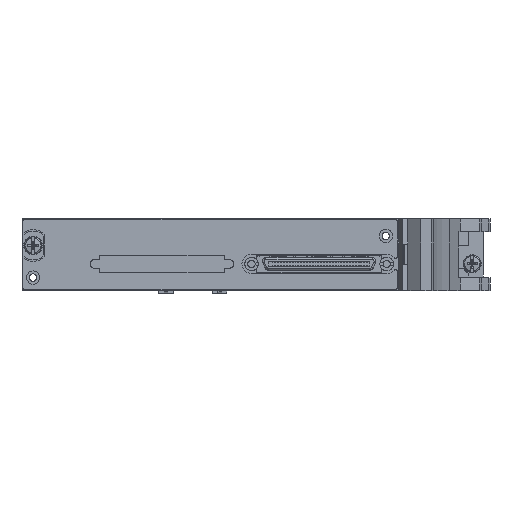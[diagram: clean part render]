
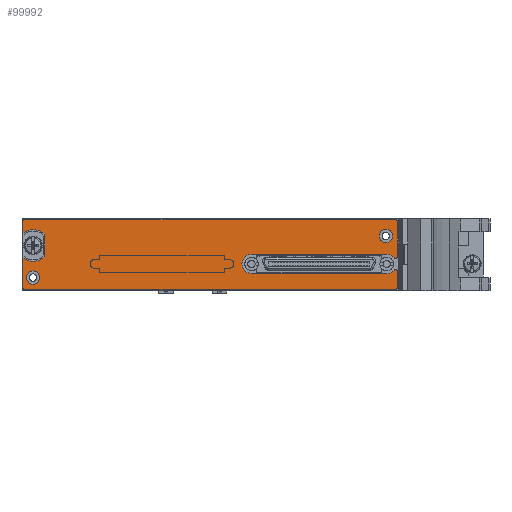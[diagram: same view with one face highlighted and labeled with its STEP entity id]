
A CAD part, left-side view. The second image highlights one B-rep face of the part: STEP entity #99992.
In plain terms, the highlighted planar face has unit normal (-1, 0, 0).
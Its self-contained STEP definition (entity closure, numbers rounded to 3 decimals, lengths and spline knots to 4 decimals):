
#22771=CARTESIAN_POINT('',(-0.2204,-3.535,0.1182));
#22772=DIRECTION('',(-1.,0.,0.));
#22773=DIRECTION('',(0.,-1.,0.));
#22774=AXIS2_PLACEMENT_3D('',#22771,#22772,#22773);
#22776=DIRECTION('',(0.,0.,1.));
#22777=VECTOR('',#22776,0.1802);
#22778=CARTESIAN_POINT('',(-0.2204,-3.555,-0.062));
#22779=LINE('',#22778,#22777);
#22780=CARTESIAN_POINT('',(-0.2204,-3.535,-0.062));
#22781=DIRECTION('',(-1.,0.,0.));
#22782=DIRECTION('',(0.,0.,-1.));
#22783=AXIS2_PLACEMENT_3D('',#22780,#22781,#22782);
#22785=DIRECTION('',(0.,-1.,0.));
#22786=VECTOR('',#22785,4.07);
#22787=CARTESIAN_POINT('',(-0.2204,0.535,-0.082));
#22788=LINE('',#22787,#22786);
#22789=CARTESIAN_POINT('',(-0.2204,0.535,-0.062));
#22790=DIRECTION('',(-1.,0.,0.));
#22791=DIRECTION('',(0.,1.,0.));
#22792=AXIS2_PLACEMENT_3D('',#22789,#22790,#22791);
#22794=DIRECTION('',(0.,0.,-1.));
#22795=VECTOR('',#22794,0.3295);
#22796=CARTESIAN_POINT('',(-0.2204,0.555,0.2675));
#22797=LINE('',#22796,#22795);
#22798=CARTESIAN_POINT('',(-0.2204,0.443,0.402));
#22799=DIRECTION('',(1.,0.,0.));
#22800=DIRECTION('',(0.,-0.737,-0.676));
#22801=AXIS2_PLACEMENT_3D('',#22798,#22799,#22800);
#22803=DIRECTION('',(0.,0.,-1.));
#22804=VECTOR('',#22803,0.2365);
#22805=CARTESIAN_POINT('',(-0.2204,0.314,0.5202));
#22806=LINE('',#22805,#22804);
#22807=CARTESIAN_POINT('',(-0.2204,0.443,0.402));
#22808=DIRECTION('',(1.,0.,0.));
#22809=DIRECTION('',(0.,0.64,0.768));
#22810=AXIS2_PLACEMENT_3D('',#22807,#22808,#22809);
#22812=DIRECTION('',(0.,0.,-1.));
#22813=VECTOR('',#22812,0.1295);
#22814=CARTESIAN_POINT('',(-0.2204,0.555,0.666));
#22815=LINE('',#22814,#22813);
#22816=CARTESIAN_POINT('',(-0.2204,0.535,0.666));
#22817=DIRECTION('',(-1.,0.,0.));
#22818=DIRECTION('',(0.,0.,1.));
#22819=AXIS2_PLACEMENT_3D('',#22816,#22817,#22818);
#22821=DIRECTION('',(0.,1.,0.));
#22822=VECTOR('',#22821,4.07);
#22823=CARTESIAN_POINT('',(-0.2204,-3.535,0.686));
#22824=LINE('',#22823,#22822);
#22825=CARTESIAN_POINT('',(-0.2204,-3.535,0.666));
#22826=DIRECTION('',(-1.,0.,0.));
#22827=DIRECTION('',(0.,-1.,0.));
#22828=AXIS2_PLACEMENT_3D('',#22825,#22826,#22827);
#22830=DIRECTION('',(0.,0.,1.));
#22831=VECTOR('',#22830,0.3842);
#22832=CARTESIAN_POINT('',(-0.2204,-3.555,0.2818));
#22833=LINE('',#22832,#22831);
#22834=CARTESIAN_POINT('',(-0.2204,-3.535,0.2818));
#22835=DIRECTION('',(-1.,0.,0.));
#22836=DIRECTION('',(0.,0.761,-0.649));
#22837=AXIS2_PLACEMENT_3D('',#22834,#22835,#22836);
#22839=CARTESIAN_POINT('',(-0.2204,-3.4391,0.2));
#22840=DIRECTION('',(-1.,0.,0.));
#22841=DIRECTION('',(0.,-0.761,0.649));
#22842=AXIS2_PLACEMENT_3D('',#22839,#22840,#22841);
#22844=DIRECTION('',(0.,1.,0.));
#22845=VECTOR('',#22844,1.4843);
#22846=CARTESIAN_POINT('',(-0.2204,-3.4391,0.306));
#22847=LINE('',#22846,#22845);
#22848=CARTESIAN_POINT('',(-0.2204,-1.9549,0.2));
#22849=DIRECTION('',(-1.,0.,0.));
#22850=DIRECTION('',(0.,0.,1.));
#22851=AXIS2_PLACEMENT_3D('',#22848,#22849,#22850);
#22853=DIRECTION('',(0.,-1.,0.));
#22854=VECTOR('',#22853,1.4843);
#22855=CARTESIAN_POINT('',(-0.2204,-1.9549,0.094));
#22856=LINE('',#22855,#22854);
#22857=CARTESIAN_POINT('',(-0.2204,-3.4391,0.2));
#22858=DIRECTION('',(-1.,0.,0.));
#22859=DIRECTION('',(0.,0.,-1.));
#22860=AXIS2_PLACEMENT_3D('',#22857,#22858,#22859);
#22862=CARTESIAN_POINT('',(-0.2204,-3.429,0.508));
#22863=DIRECTION('',(-1.,0.,0.));
#22864=DIRECTION('',(0.,1.,0.));
#22865=AXIS2_PLACEMENT_3D('',#22862,#22863,#22864);
#22867=CARTESIAN_POINT('',(-0.2204,-3.429,0.508));
#22868=DIRECTION('',(-1.,0.,0.));
#22869=DIRECTION('',(0.,-1.,0.));
#22870=AXIS2_PLACEMENT_3D('',#22867,#22868,#22869);
#22872=CARTESIAN_POINT('',(-0.2204,0.443,0.05));
#22873=DIRECTION('',(-1.,0.,0.));
#22874=DIRECTION('',(0.,1.,0.));
#22875=AXIS2_PLACEMENT_3D('',#22872,#22873,#22874);
#22877=CARTESIAN_POINT('',(-0.2204,0.443,0.05));
#22878=DIRECTION('',(-1.,0.,0.));
#22879=DIRECTION('',(0.,-1.,0.));
#22880=AXIS2_PLACEMENT_3D('',#22877,#22878,#22879);
#72632=CARTESIAN_POINT('',(-0.2204,0.535,0.686));
#72633=CARTESIAN_POINT('',(-0.2204,0.555,0.666));
#72634=VERTEX_POINT('',#72632);
#72635=VERTEX_POINT('',#72633);
#72636=CARTESIAN_POINT('',(-0.2204,0.555,0.5365));
#72637=VERTEX_POINT('',#72636);
#72638=CARTESIAN_POINT('',(-0.2204,0.314,0.5202));
#72639=VERTEX_POINT('',#72638);
#72640=CARTESIAN_POINT('',(-0.2204,0.314,0.2837));
#72641=VERTEX_POINT('',#72640);
#72642=CARTESIAN_POINT('',(-0.2204,0.555,0.2675));
#72643=VERTEX_POINT('',#72642);
#72644=CARTESIAN_POINT('',(-0.2204,0.555,-0.062));
#72645=VERTEX_POINT('',#72644);
#72646=CARTESIAN_POINT('',(-0.2204,0.535,-0.082));
#72647=VERTEX_POINT('',#72646);
#72648=CARTESIAN_POINT('',(-0.2204,-3.535,-0.082));
#72649=VERTEX_POINT('',#72648);
#72650=CARTESIAN_POINT('',(-0.2204,-3.555,-0.062));
#72651=VERTEX_POINT('',#72650);
#72652=CARTESIAN_POINT('',(-0.2204,-3.555,0.666));
#72653=CARTESIAN_POINT('',(-0.2204,-3.535,0.686));
#72654=VERTEX_POINT('',#72652);
#72655=VERTEX_POINT('',#72653);
#72656=CARTESIAN_POINT('',(-0.2204,-3.3565,0.508));
#72657=CARTESIAN_POINT('',(-0.2204,-3.5015,0.508));
#72658=VERTEX_POINT('',#72656);
#72659=VERTEX_POINT('',#72657);
#72660=CARTESIAN_POINT('',(-0.2204,0.5155,0.05));
#72661=CARTESIAN_POINT('',(-0.2204,0.3705,0.05));
#72662=VERTEX_POINT('',#72660);
#72663=VERTEX_POINT('',#72661);
#72664=CARTESIAN_POINT('',(-0.2204,-3.4391,0.306));
#72665=CARTESIAN_POINT('',(-0.2204,-1.9549,0.306));
#72666=VERTEX_POINT('',#72664);
#72667=VERTEX_POINT('',#72665);
#72668=CARTESIAN_POINT('',(-0.2204,-1.9549,0.094));
#72669=VERTEX_POINT('',#72668);
#72670=CARTESIAN_POINT('',(-0.2204,-3.4391,0.094));
#72671=VERTEX_POINT('',#72670);
#72672=CARTESIAN_POINT('',(-0.2204,-3.555,0.1182));
#72673=CARTESIAN_POINT('',(-0.2204,-3.5198,
0.1312));
#72674=VERTEX_POINT('',#72672);
#72675=VERTEX_POINT('',#72673);
#72676=CARTESIAN_POINT('',(-0.2204,-3.5198,
0.2688));
#72677=CARTESIAN_POINT('',(-0.2204,-3.555,0.2818));
#72678=VERTEX_POINT('',#72676);
#72679=VERTEX_POINT('',#72677);
#99953=CARTESIAN_POINT('',(-0.2204,0.443,0.402));
#99954=DIRECTION('',(-1.,0.,0.));
#99955=DIRECTION('',(0.,0.,1.));
#99956=AXIS2_PLACEMENT_3D('',#99953,#99954,#99955);
#99957=PLANE('',#99956);
#99958=ORIENTED_EDGE('',*,*,#99822,.F.);
#99959=ORIENTED_EDGE('',*,*,#99836,.F.);
#99960=ORIENTED_EDGE('',*,*,#99850,.F.);
#99961=ORIENTED_EDGE('',*,*,#99864,.F.);
#99962=ORIENTED_EDGE('',*,*,#99878,.F.);
#99963=ORIENTED_EDGE('',*,*,#99892,.F.);
#99964=ORIENTED_EDGE('',*,*,#99906,.F.);
#99965=ORIENTED_EDGE('',*,*,#99920,.F.);
#99966=ORIENTED_EDGE('',*,*,#99934,.F.);
#99967=ORIENTED_EDGE('',*,*,#99947,.F.);
#99968=ORIENTED_EDGE('',*,*,#99681,.F.);
#99969=ORIENTED_EDGE('',*,*,#99696,.F.);
#99970=ORIENTED_EDGE('',*,*,#99710,.F.);
#99971=ORIENTED_EDGE('',*,*,#99724,.F.);
#99972=ORIENTED_EDGE('',*,*,#99738,.F.);
#99973=ORIENTED_EDGE('',*,*,#99752,.T.);
#99974=ORIENTED_EDGE('',*,*,#99766,.T.);
#99975=ORIENTED_EDGE('',*,*,#99780,.T.);
#99976=ORIENTED_EDGE('',*,*,#99794,.T.);
#99977=ORIENTED_EDGE('',*,*,#99808,.T.);
#99978=EDGE_LOOP('',(#99958,#99959,#99960,#99961,#99962,#99963,#99964,#99965,
#99966,#99967,#99968,#99969,#99970,#99971,#99972,#99973,#99974,#99975,#99976,
#99977));
#99979=FACE_OUTER_BOUND('',#99978,.F.);
#99981=ORIENTED_EDGE('',*,*,#99980,.T.);
#99983=ORIENTED_EDGE('',*,*,#99982,.T.);
#99984=EDGE_LOOP('',(#99981,#99983));
#99985=FACE_BOUND('',#99984,.F.);
#99987=ORIENTED_EDGE('',*,*,#99986,.T.);
#99989=ORIENTED_EDGE('',*,*,#99988,.T.);
#99990=EDGE_LOOP('',(#99987,#99989));
#99991=FACE_BOUND('',#99990,.F.);
#99992=ADVANCED_FACE('',(#99979,#99985,#99991),#99957,.T.);
#22775=CIRCLE('',#22774,0.02);
#22784=CIRCLE('',#22783,0.02);
#22793=CIRCLE('',#22792,0.02);
#22802=CIRCLE('',#22801,0.175);
#22811=CIRCLE('',#22810,0.175);
#22820=CIRCLE('',#22819,0.02);
#22829=CIRCLE('',#22828,0.02);
#22838=CIRCLE('',#22837,0.02);
#22843=CIRCLE('',#22842,0.106);
#22852=CIRCLE('',#22851,0.106);
#22861=CIRCLE('',#22860,0.106);
#22866=CIRCLE('',#22865,0.0725);
#22871=CIRCLE('',#22870,0.0725);
#22876=CIRCLE('',#22875,0.0725);
#22881=CIRCLE('',#22880,0.0725);
#99681=EDGE_CURVE('',#72634,#72635,#22820,.T.);
#99696=EDGE_CURVE('',#72655,#72634,#22824,.T.);
#99710=EDGE_CURVE('',#72654,#72655,#22829,.T.);
#99724=EDGE_CURVE('',#72679,#72654,#22833,.T.);
#99738=EDGE_CURVE('',#72678,#72679,#22838,.T.);
#99752=EDGE_CURVE('',#72678,#72666,#22843,.T.);
#99766=EDGE_CURVE('',#72666,#72667,#22847,.T.);
#99780=EDGE_CURVE('',#72667,#72669,#22852,.T.);
#99794=EDGE_CURVE('',#72669,#72671,#22856,.T.);
#99808=EDGE_CURVE('',#72671,#72675,#22861,.T.);
#99822=EDGE_CURVE('',#72674,#72675,#22775,.T.);
#99836=EDGE_CURVE('',#72651,#72674,#22779,.T.);
#99850=EDGE_CURVE('',#72649,#72651,#22784,.T.);
#99864=EDGE_CURVE('',#72647,#72649,#22788,.T.);
#99878=EDGE_CURVE('',#72645,#72647,#22793,.T.);
#99892=EDGE_CURVE('',#72643,#72645,#22797,.T.);
#99906=EDGE_CURVE('',#72641,#72643,#22802,.T.);
#99920=EDGE_CURVE('',#72639,#72641,#22806,.T.);
#99934=EDGE_CURVE('',#72637,#72639,#22811,.T.);
#99947=EDGE_CURVE('',#72635,#72637,#22815,.T.);
#99980=EDGE_CURVE('',#72658,#72659,#22866,.T.);
#99982=EDGE_CURVE('',#72659,#72658,#22871,.T.);
#99986=EDGE_CURVE('',#72662,#72663,#22876,.T.);
#99988=EDGE_CURVE('',#72663,#72662,#22881,.T.);
